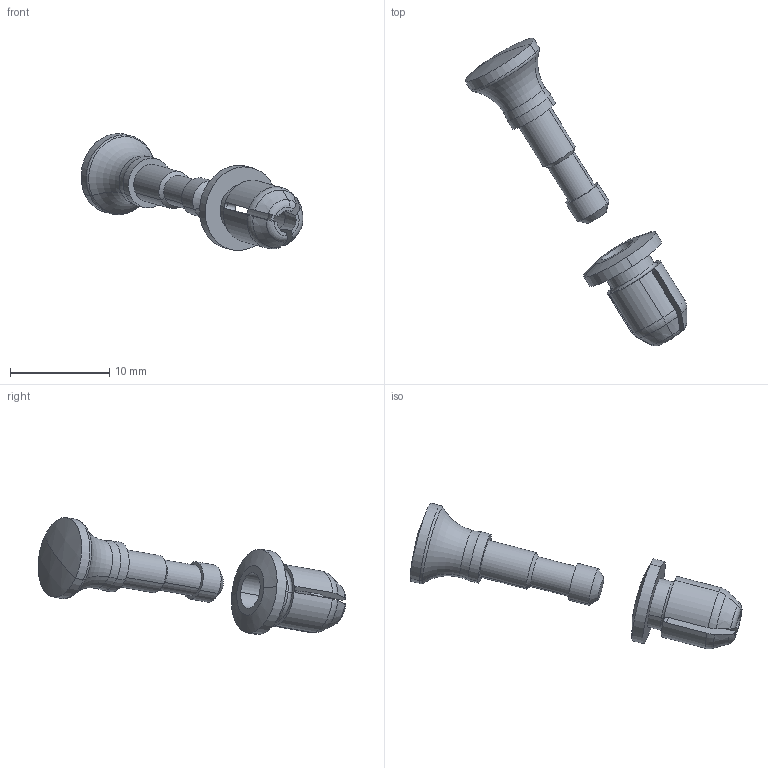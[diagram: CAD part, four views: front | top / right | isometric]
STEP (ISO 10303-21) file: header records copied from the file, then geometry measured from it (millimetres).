
FILE_DESCRIPTION (( 'STEP AP214' ), '1' );
FILE_NAME ('Southco Nylatch 2-piece (mini grip).STEP', '2021-02-20T20:07:47', ( '' ), ( '' ), 'SwSTEP 2.0', 'SolidWorks 2018', '' );
FILE_SCHEMA (( 'AUTOMOTIVE_DESIGN' ));
Length unit declared in the file: millimetre
Products named in the file (3): Southco-NY-4P-43-4-51; Southco-NY-4G-42-10; Southco Nylatch 2-piece (mini grip)
Assembly tree (2 placements, depth 2):
  Southco Nylatch 2-piece (mini grip)
    Southco-NY-4G-42-10
    Southco-NY-4P-43-4-51
Bounding box: 22.38 x 31.03 x 11.79 mm (x, y, z)
Volume: 531.3 mm3; surface area: 784.6 mm2
Topology: 2 solids, 2 shells, 82 faces, 204 edges, 129 vertices
Faces by surface type: cylinder 25, torus 20, plane 18, cone 17, sphere 2
Entity records: 2740 total; most frequent: CARTESIAN_POINT 683, DIRECTION 427, ORIENTED_EDGE 408, EDGE_CURVE 204, AXIS2_PLACEMENT_3D 182, VERTEX_POINT 129, CIRCLE 95, EDGE_LOOP 87
